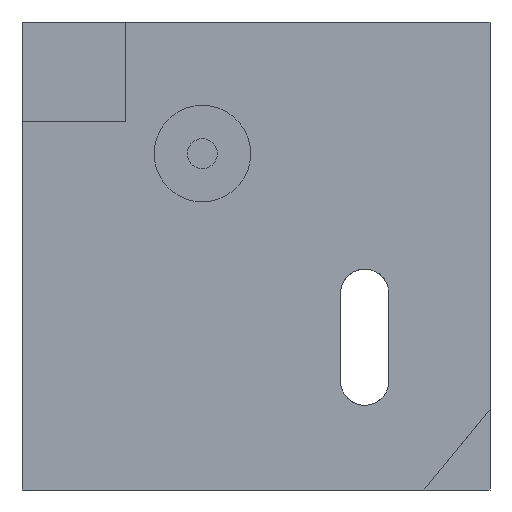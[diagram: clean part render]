
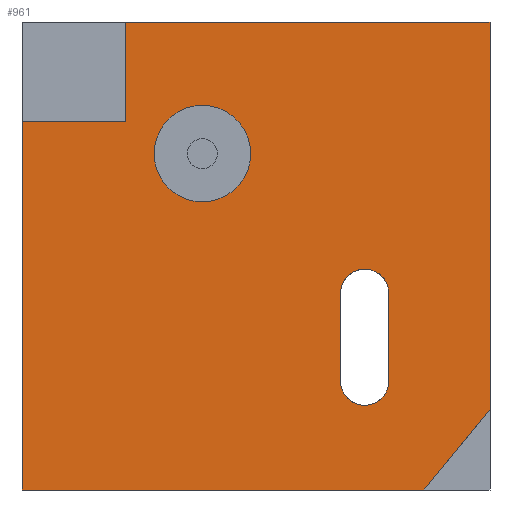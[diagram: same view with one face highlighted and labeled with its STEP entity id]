
A CAD part, left-side view. The second image highlights one B-rep face of the part: STEP entity #961.
In plain terms, the highlighted planar face has unit normal (-1, 0, 0).
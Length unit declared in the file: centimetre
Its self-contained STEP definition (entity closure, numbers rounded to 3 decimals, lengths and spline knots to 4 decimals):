
#19 = EDGE_LOOP ( 'NONE', ( #576, #999, #1920, #1226, #1410, #1493, #152 ) ) ;
#68 = DIRECTION ( 'NONE',  ( -1., 0., 0. ) ) ;
#88 = CARTESIAN_POINT ( 'NONE',  ( 0., 1000., 1000. ) ) ;
#94 = CARTESIAN_POINT ( 'NONE',  ( 0., 216.0755, 232.4607 ) ) ;
#101 = EDGE_CURVE ( 'NONE', #683, #1409, #1417, .T. ) ;
#105 = CARTESIAN_POINT ( 'NONE',  ( 0., 216.0755, 420.5093 ) ) ;
#135 = AXIS2_PLACEMENT_3D ( 'NONE', #1081, #68, #491 ) ;
#152 = ORIENTED_EDGE ( 'NONE', *, *, #817, .F. ) ;
#169 = DIRECTION ( 'NONE',  ( 0., 0., 1. ) ) ;
#217 = DIRECTION ( 'NONE',  ( 0., 0., -1. ) ) ;
#225 = CARTESIAN_POINT ( 'NONE',  ( 0., 140.8658, 0. ) ) ;
#233 = ORIENTED_EDGE ( 'NONE', *, *, #101, .F. ) ;
#240 = CARTESIAN_POINT ( 'NONE',  ( 0., 140.8658, 0. ) ) ;
#244 = FACE_BOUND ( 'NONE', #1115, .T. ) ;
#251 = CARTESIAN_POINT ( 'NONE',  ( 0., 1000., 1000. ) ) ;
#297 = CARTESIAN_POINT ( 'NONE',  ( 0., 1000., 0. ) ) ;
#301 = EDGE_CURVE ( 'NONE', #1722, #683, #1300, .T. ) ;
#310 = EDGE_CURVE ( 'NONE', #1629, #1707, #1360, .T. ) ;
#341 = VERTEX_POINT ( 'NONE', #1311 ) ;
#358 = LINE ( 'NONE', #925, #665 ) ;
#363 = VERTEX_POINT ( 'NONE', #1089 ) ;
#366 = CARTESIAN_POINT ( 'NONE',  ( 0., 319.203, 420.5093 ) ) ;
#390 = VERTEX_POINT ( 'NONE', #240 ) ;
#401 = LINE ( 'NONE', #225, #1794 ) ;
#410 = EDGE_CURVE ( 'NONE', #1503, #1379, #1607, .T. ) ;
#430 = AXIS2_PLACEMENT_3D ( 'NONE', #446, #1022, #1633 ) ;
#433 = ORIENTED_EDGE ( 'NONE', *, *, #550, .F. ) ;
#446 = CARTESIAN_POINT ( 'NONE',  ( 0., 614.571, 718.8038 ) ) ;
#447 = VECTOR ( 'NONE', #1270, 100. ) ;
#476 = EDGE_LOOP ( 'NONE', ( #1369, #577 ) ) ;
#491 = DIRECTION ( 'NONE',  ( 0., 0., 1. ) ) ;
#535 = LINE ( 'NONE', #251, #1248 ) ;
#550 = EDGE_CURVE ( 'NONE', #1767, #1722, #1519, .T. ) ;
#554 = FACE_BOUND ( 'NONE', #476, .T. ) ;
#557 = DIRECTION ( 'NONE',  ( 0., -1., 0. ) ) ;
#576 = ORIENTED_EDGE ( 'NONE', *, *, #310, .F. ) ;
#577 = ORIENTED_EDGE ( 'NONE', *, *, #1289, .F. ) ;
#604 = CARTESIAN_POINT ( 'NONE',  ( 0., 779.611, 788.3445 ) ) ;
#619 = EDGE_CURVE ( 'NONE', #363, #1197, #1524, .T. ) ;
#654 = CARTESIAN_POINT ( 'NONE',  ( 0., 319.203, 232.4607 ) ) ;
#665 = VECTOR ( 'NONE', #936, 100. ) ;
#668 = CARTESIAN_POINT ( 'NONE',  ( 0., 0., 1000. ) ) ;
#678 = CARTESIAN_POINT ( 'NONE',  ( 0., 0., 1000. ) ) ;
#682 = AXIS2_PLACEMENT_3D ( 'NONE', #776, #924, #807 ) ;
#683 = VERTEX_POINT ( 'NONE', #1346 ) ;
#695 = DIRECTION ( 'NONE',  ( 0., -1., 0. ) ) ;
#707 = VECTOR ( 'NONE', #910, 100. ) ;
#714 = EDGE_CURVE ( 'NONE', #1409, #341, #1883, .T. ) ;
#752 = ORIENTED_EDGE ( 'NONE', *, *, #1879, .F. ) ;
#757 = DIRECTION ( 'NONE',  ( 0., 0., 1. ) ) ;
#776 = CARTESIAN_POINT ( 'NONE',  ( 0., 614.571, 718.8038 ) ) ;
#777 = CARTESIAN_POINT ( 'NONE',  ( 0., 0., 172.667 ) ) ;
#807 = DIRECTION ( 'NONE',  ( 0., 0., 1. ) ) ;
#817 = EDGE_CURVE ( 'NONE', #1707, #1503, #535, .T. ) ;
#823 = DIRECTION ( 'NONE',  ( 1., 0., 0. ) ) ;
#852 = CIRCLE ( 'NONE', #430, 103.1388 ) ;
#882 = VERTEX_POINT ( 'NONE', #1325 ) ;
#893 = EDGE_CURVE ( 'NONE', #882, #1629, #1644, .T. ) ;
#910 = DIRECTION ( 'NONE',  ( 0., 0., -1. ) ) ;
#914 = FACE_OUTER_BOUND ( 'NONE', #19, .T. ) ;
#921 = DIRECTION ( 'NONE',  ( -1., 0., 0. ) ) ;
#924 = DIRECTION ( 'NONE',  ( -1., 0., 0. ) ) ;
#925 = CARTESIAN_POINT ( 'NONE',  ( 0., 1000., 1000. ) ) ;
#936 = DIRECTION ( 'NONE',  ( 0., 0., -1. ) ) ;
#940 = CARTESIAN_POINT ( 'NONE',  ( 0., 779.611, 1000. ) ) ;
#959 = CARTESIAN_POINT ( 'NONE',  ( 0., 614.571, 615.6651 ) ) ;
#961 = ADVANCED_FACE ( 'NONE', ( #244, #554, #914 ), #1584, .F. ) ;
#999 = ORIENTED_EDGE ( 'NONE', *, *, #893, .F. ) ;
#1016 = VECTOR ( 'NONE', #1443, 100. ) ;
#1022 = DIRECTION ( 'NONE',  ( -1., 0., 0. ) ) ;
#1042 = CARTESIAN_POINT ( 'NONE',  ( 0., 267.6393, 420.5093 ) ) ;
#1049 = EDGE_CURVE ( 'NONE', #1606, #390, #1275, .T. ) ;
#1064 = EDGE_CURVE ( 'NONE', #1379, #390, #401, .T. ) ;
#1081 = CARTESIAN_POINT ( 'NONE',  ( 0., 267.6393, 232.4607 ) ) ;
#1089 = CARTESIAN_POINT ( 'NONE',  ( 0., 614.571, 821.9426 ) ) ;
#1094 = CARTESIAN_POINT ( 'NONE',  ( 0., 267.6393, 420.5093 ) ) ;
#1109 = DIRECTION ( 'NONE',  ( 0., 0.632, -0.775 ) ) ;
#1115 = EDGE_LOOP ( 'NONE', ( #233, #1448, #433, #752, #1769 ) ) ;
#1183 = VECTOR ( 'NONE', #1756, 100. ) ;
#1195 = EDGE_CURVE ( 'NONE', #882, #1606, #358, .T. ) ;
#1197 = VERTEX_POINT ( 'NONE', #959 ) ;
#1226 = ORIENTED_EDGE ( 'NONE', *, *, #1049, .T. ) ;
#1235 = VECTOR ( 'NONE', #169, 100. ) ;
#1248 = VECTOR ( 'NONE', #557, 100. ) ;
#1270 = DIRECTION ( 'NONE',  ( 0., 0., -1. ) ) ;
#1275 = LINE ( 'NONE', #1878, #1906 ) ;
#1289 = EDGE_CURVE ( 'NONE', #1197, #363, #852, .T. ) ;
#1291 = CIRCLE ( 'NONE', #1804, 51.5638 ) ;
#1300 = CIRCLE ( 'NONE', #135, 51.5638 ) ;
#1311 = CARTESIAN_POINT ( 'NONE',  ( 0., 267.6393, 472.0731 ) ) ;
#1325 = CARTESIAN_POINT ( 'NONE',  ( 0., 1000., 788.3445 ) ) ;
#1346 = CARTESIAN_POINT ( 'NONE',  ( 0., 216.0755, 232.4607 ) ) ;
#1360 = LINE ( 'NONE', #1523, #1235 ) ;
#1369 = ORIENTED_EDGE ( 'NONE', *, *, #619, .F. ) ;
#1379 = VERTEX_POINT ( 'NONE', #777 ) ;
#1409 = VERTEX_POINT ( 'NONE', #105 ) ;
#1410 = ORIENTED_EDGE ( 'NONE', *, *, #1064, .F. ) ;
#1417 = LINE ( 'NONE', #94, #1016 ) ;
#1443 = DIRECTION ( 'NONE',  ( 0., 0., 1. ) ) ;
#1448 = ORIENTED_EDGE ( 'NONE', *, *, #301, .F. ) ;
#1487 = DIRECTION ( 'NONE',  ( -1., 0., 0. ) ) ;
#1493 = ORIENTED_EDGE ( 'NONE', *, *, #410, .F. ) ;
#1503 = VERTEX_POINT ( 'NONE', #668 ) ;
#1519 = LINE ( 'NONE', #366, #707 ) ;
#1523 = CARTESIAN_POINT ( 'NONE',  ( 0., 779.611, 788.3445 ) ) ;
#1524 = CIRCLE ( 'NONE', #682, 103.1388 ) ;
#1584 = PLANE ( 'NONE',  #1821 ) ;
#1605 = AXIS2_PLACEMENT_3D ( 'NONE', #1094, #921, #1688 ) ;
#1606 = VERTEX_POINT ( 'NONE', #297 ) ;
#1607 = LINE ( 'NONE', #678, #447 ) ;
#1629 = VERTEX_POINT ( 'NONE', #1658 ) ;
#1633 = DIRECTION ( 'NONE',  ( 0., 0., 1. ) ) ;
#1644 = LINE ( 'NONE', #604, #1183 ) ;
#1658 = CARTESIAN_POINT ( 'NONE',  ( 0., 779.611, 788.3445 ) ) ;
#1673 = CARTESIAN_POINT ( 'NONE',  ( 0., 319.203, 420.5093 ) ) ;
#1688 = DIRECTION ( 'NONE',  ( 0., 0., 1. ) ) ;
#1707 = VERTEX_POINT ( 'NONE', #940 ) ;
#1722 = VERTEX_POINT ( 'NONE', #654 ) ;
#1756 = DIRECTION ( 'NONE',  ( 0., -1., 0. ) ) ;
#1767 = VERTEX_POINT ( 'NONE', #1673 ) ;
#1769 = ORIENTED_EDGE ( 'NONE', *, *, #714, .F. ) ;
#1794 = VECTOR ( 'NONE', #1109, 100. ) ;
#1804 = AXIS2_PLACEMENT_3D ( 'NONE', #1042, #1487, #757 ) ;
#1821 = AXIS2_PLACEMENT_3D ( 'NONE', #88, #823, #217 ) ;
#1878 = CARTESIAN_POINT ( 'NONE',  ( 0., 1000., 0. ) ) ;
#1879 = EDGE_CURVE ( 'NONE', #341, #1767, #1291, .T. ) ;
#1883 = CIRCLE ( 'NONE', #1605, 51.5638 ) ;
#1906 = VECTOR ( 'NONE', #695, 100. ) ;
#1920 = ORIENTED_EDGE ( 'NONE', *, *, #1195, .T. ) ;
